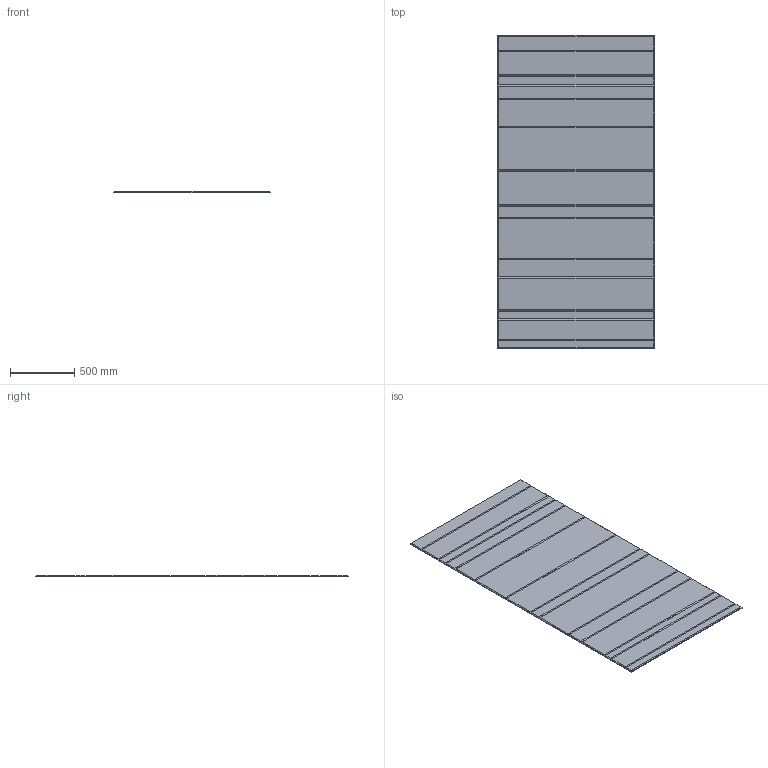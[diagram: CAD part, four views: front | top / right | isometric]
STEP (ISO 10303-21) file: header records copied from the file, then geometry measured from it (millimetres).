
FILE_DESCRIPTION(/* description */ (''),/* implementation_level */ '2;1');
FILE_NAME(/* name */ 'Y:\Design and Engineering\MaterialLogiq\CAD ASSETS\MASTER\PET ENGRAVED\WEB ASSETS\Strata Horizontal.stp',/* time_stamp */ '2024-08-26T10:43:13-05:00',/* author */ ('Grant Baker'),/* organization */ (''),/* preprocessor_version */ 'ST-DEVELOPER v19',/* originating_system */ 'Autodesk Inventor 2023',/* authorisation */ '');
FILE_SCHEMA (('AUTOMOTIVE_DESIGN { 1 0 10303 214 3 1 1 }'));
Length unit declared in the file: inch
Products named in the file (1): Strata Horizontal
Bounding box: 1219.2 x 2438.4 x 12.7 mm (x, y, z)
Volume: 36973995.9 mm3; surface area: 6093928.6 mm2
Topology: 1 solids, 1 shells, 75 faces, 163 edges, 90 vertices
Faces by surface type: plane 75
Entity records: 1974 total; most frequent: CARTESIAN_POINT 329, ORIENTED_EDGE 326, DIRECTION 315, LINE 163, VECTOR 163, EDGE_CURVE 163, VERTEX_POINT 90, AXIS2_PLACEMENT_3D 76
